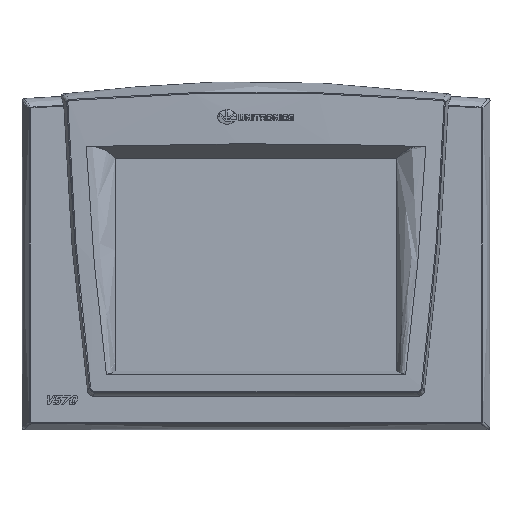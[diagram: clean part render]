
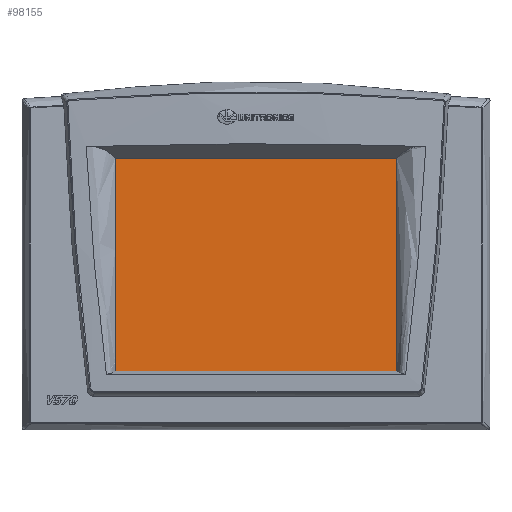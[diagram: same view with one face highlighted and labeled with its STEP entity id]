
A CAD part, top view. The second image highlights one B-rep face of the part: STEP entity #98155.
In plain terms, the highlighted planar face has unit normal (0, 0, 1).
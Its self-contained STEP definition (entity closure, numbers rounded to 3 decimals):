
#2426 = CARTESIAN_POINT ( 'NONE',  ( 39.22, 114.088, 68.834 ) ) ;
#2501 = EDGE_CURVE ( 'NONE', #33394, #163655, #140305, .T. ) ;
#12737 = ORIENTED_EDGE ( 'NONE', *, *, #2501, .F. ) ;
#14305 = PLANE ( 'NONE',  #139421 ) ;
#27703 = DIRECTION ( 'NONE',  ( 0., -1., 0. ) ) ;
#31572 = VERTEX_POINT ( 'NONE', #118990 ) ;
#33125 = EDGE_CURVE ( 'NONE', #33394, #69383, #107268, .T. ) ;
#33394 = VERTEX_POINT ( 'NONE', #151410 ) ;
#33926 = VECTOR ( 'NONE', #45617, 1000. ) ;
#34539 = CARTESIAN_POINT ( 'NONE',  ( 157.52, 24.588, 68.834 ) ) ;
#42128 = FACE_OUTER_BOUND ( 'NONE', #44251, .T. ) ;
#44251 = EDGE_LOOP ( 'NONE', ( #104799, #107168, #165556, #134029, #12737 ) ) ;
#45617 = DIRECTION ( 'NONE',  ( 1., 0., 0. ) ) ;
#54860 = DIRECTION ( 'NONE',  ( 0., -1., 0. ) ) ;
#57616 = CARTESIAN_POINT ( 'NONE',  ( 39.22, 114.088, 68.834 ) ) ;
#58981 = CARTESIAN_POINT ( 'NONE',  ( 33.472, 24.665, 68.834 ) ) ;
#64622 = VECTOR ( 'NONE', #129422, 1000. ) ;
#69383 = VERTEX_POINT ( 'NONE', #77140 ) ;
#77140 = CARTESIAN_POINT ( 'NONE',  ( 39.239, 24.665, 68.834 ) ) ;
#81460 = VERTEX_POINT ( 'NONE', #93767 ) ;
#87803 = EDGE_CURVE ( 'NONE', #69383, #81460, #124258, .T. ) ;
#90046 = CARTESIAN_POINT ( 'NONE',  ( 39.22, 24.588, 68.834 ) ) ;
#90833 = VECTOR ( 'NONE', #54860, 1000. ) ;
#93767 = CARTESIAN_POINT ( 'NONE',  ( 157.52, 24.665, 68.834 ) ) ;
#94704 = EDGE_CURVE ( 'NONE', #163655, #31572, #119632, .T. ) ;
#96561 = CARTESIAN_POINT ( 'NONE',  ( 39.226, 27.109, 68.834 ) ) ;
#97380 = CARTESIAN_POINT ( 'NONE',  ( 39.239, 24.665, 68.834 ) ) ;
#98081 = LINE ( 'NONE', #34539, #90833 ) ;
#98155 = ADVANCED_FACE ( 'NONE', ( #42128 ), #14305, .F. ) ;
#100760 = VECTOR ( 'NONE', #106213, 1000. ) ;
#104799 = ORIENTED_EDGE ( 'NONE', *, *, #33125, .T. ) ;
#106213 = DIRECTION ( 'NONE',  ( 1., 0., 0. ) ) ;
#107117 = DIRECTION ( 'NONE',  ( 0., 0., -1. ) ) ;
#107168 = ORIENTED_EDGE ( 'NONE', *, *, #87803, .T. ) ;
#107268 = B_SPLINE_CURVE_WITH_KNOTS ( 'NONE', 3,
 ( #110784, #96561, #109947, #97380 ),
 .UNSPECIFIED., .F., .F.,
 ( 4, 4 ),
 ( 0., 0.004 ),
 .UNSPECIFIED. ) ;
#109947 = CARTESIAN_POINT ( 'NONE',  ( 39.233, 25.887, 68.834 ) ) ;
#110784 = CARTESIAN_POINT ( 'NONE',  ( 39.22, 28.331, 68.834 ) ) ;
#118990 = CARTESIAN_POINT ( 'NONE',  ( 157.52, 114.088, 68.834 ) ) ;
#119632 = LINE ( 'NONE', #57616, #100760 ) ;
#124258 = LINE ( 'NONE', #58981, #33926 ) ;
#128982 = CARTESIAN_POINT ( 'NONE',  ( 157.52, 114.088, 68.834 ) ) ;
#129422 = DIRECTION ( 'NONE',  ( 0., 1., 0. ) ) ;
#134029 = ORIENTED_EDGE ( 'NONE', *, *, #94704, .F. ) ;
#139421 = AXIS2_PLACEMENT_3D ( 'NONE', #128982, #107117, #27703 ) ;
#140305 = LINE ( 'NONE', #90046, #64622 ) ;
#144169 = EDGE_CURVE ( 'NONE', #31572, #81460, #98081, .T. ) ;
#151410 = CARTESIAN_POINT ( 'NONE',  ( 39.22, 28.331, 68.834 ) ) ;
#163655 = VERTEX_POINT ( 'NONE', #2426 ) ;
#165556 = ORIENTED_EDGE ( 'NONE', *, *, #144169, .F. ) ;
